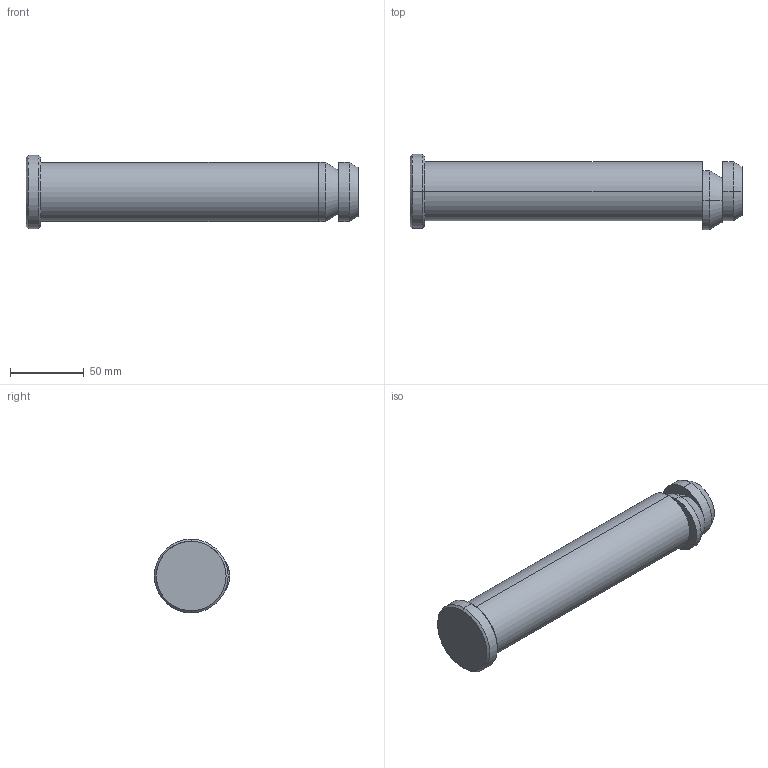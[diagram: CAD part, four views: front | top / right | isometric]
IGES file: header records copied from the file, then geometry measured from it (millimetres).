
Start section: START RECORD GO HERE.
Global section: file name: 395W-040-225.igs; native system: DASSAULT SYSTEMES CATIA V5 R20 - www.3ds.com; preprocessor: CATIA Version 5 Release 20 ; author: Utente; organization: NB04-ASUS; date: 20200410.165658; units: millimetre
Bounding box: 225 x 51 x 50 mm (x, y, z)
Surface area: 35970.8 mm2 (no closed solid volume)
Topology: 0 solids, 0 shells, 27 faces, 104 edges, 104 vertices
Faces by surface type: revolution 20, extrusion 7
